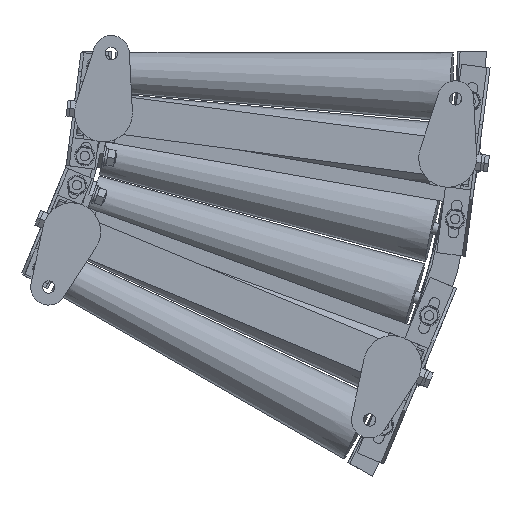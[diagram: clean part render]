
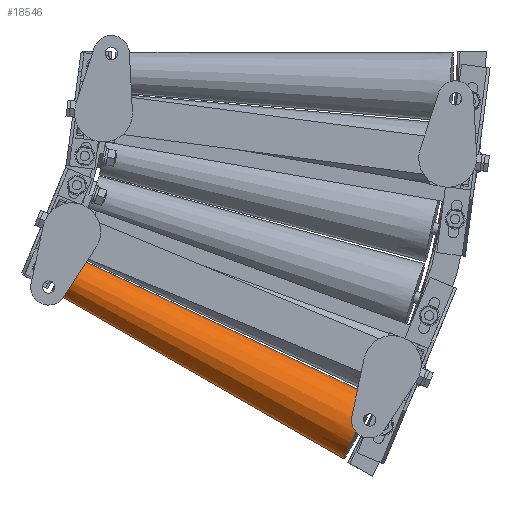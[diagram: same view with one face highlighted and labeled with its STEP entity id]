
A CAD part, front view. The second image highlights one B-rep face of the part: STEP entity #18546.
In plain terms, the highlighted conical face has half-angle 2.422 degrees and reference radius 36.35 mm.
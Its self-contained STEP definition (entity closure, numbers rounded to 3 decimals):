
#5258 = DIRECTION ( 'NONE',  ( 0.886, -0.042, -0.461 ) ) ;
#9845 = VERTEX_POINT ( 'NONE', #62676 ) ;
#11859 = CONICAL_SURFACE ( 'NONE', #29322, 36.35, 0.042 ) ;
#13032 = LINE ( 'NONE', #29875, #73613 ) ;
#18546 = ADVANCED_FACE ( 'NONE', ( #55116 ), #11859, .T. ) ;
#19120 = CARTESIAN_POINT ( 'NONE',  ( 457.377, -21.331, -214.026 ) ) ;
#20993 = CARTESIAN_POINT ( 'NONE',  ( 778.63, -36.318, -364.349 ) ) ;
#24072 = LINE ( 'NONE', #86796, #32755 ) ;
#24099 = VERTEX_POINT ( 'NONE', #20993 ) ;
#27159 = EDGE_CURVE ( 'NONE', #27492, #9845, #24072, .T. ) ;
#27492 = VERTEX_POINT ( 'NONE', #89789 ) ;
#29263 = CARTESIAN_POINT ( 'NONE',  ( 761.845, -36.318, -396.591 ) ) ;
#29322 = AXIS2_PLACEMENT_3D ( 'NONE', #53663, #5258, #81485 ) ;
#29875 = CARTESIAN_POINT ( 'NONE',  ( 778.63, -36.318, -364.349 ) ) ;
#32755 = VECTOR ( 'NONE', #38364, 1000. ) ;
#34746 = ORIENTED_EDGE ( 'NONE', *, *, #80689, .F. ) ;
#36521 = DIRECTION ( 'NONE',  ( 0.905, -0.042, -0.423 ) ) ;
#38364 = DIRECTION ( 'NONE',  ( 0.866, -0.042, -0.498 ) ) ;
#40986 = DIRECTION ( 'NONE',  ( -0.886, 0.042, 0.461 ) ) ;
#46493 = CIRCLE ( 'NONE', #81958, 21.35 ) ;
#49791 = ORIENTED_EDGE ( 'NONE', *, *, #60285, .F. ) ;
#53335 = AXIS2_PLACEMENT_3D ( 'NONE', #29263, #78066, #77766 ) ;
#53617 = ORIENTED_EDGE ( 'NONE', *, *, #27159, .T. ) ;
#53663 = CARTESIAN_POINT ( 'NONE',  ( 761.845, -36.318, -396.591 ) ) ;
#54364 = VERTEX_POINT ( 'NONE', #19120 ) ;
#55116 = FACE_OUTER_BOUND ( 'NONE', #64313, .T. ) ;
#58458 = EDGE_CURVE ( 'NONE', #9845, #24099, #60254, .T. ) ;
#59546 = ORIENTED_EDGE ( 'NONE', *, *, #58458, .T. ) ;
#60254 = CIRCLE ( 'NONE', #53335, 36.35 ) ;
#60285 = EDGE_CURVE ( 'NONE', #27492, #54364, #46493, .T. ) ;
#62676 = CARTESIAN_POINT ( 'NONE',  ( 745.06, -36.318, -428.834 ) ) ;
#64313 = EDGE_LOOP ( 'NONE', ( #34746, #49791, #53617, #59546 ) ) ;
#73613 = VECTOR ( 'NONE', #36521, 1000. ) ;
#77766 = DIRECTION ( 'NONE',  ( 0.462, 0., 0.887 ) ) ;
#78066 = DIRECTION ( 'NONE',  ( -0.886, 0.042, 0.461 ) ) ;
#80689 = EDGE_CURVE ( 'NONE', #54364, #24099, #13032, .T. ) ;
#81485 = DIRECTION ( 'NONE',  ( -0.462, 0., -0.887 ) ) ;
#81958 = AXIS2_PLACEMENT_3D ( 'NONE', #82478, #40986, #89419 ) ;
#82478 = CARTESIAN_POINT ( 'NONE',  ( 447.518, -21.331, -232.963 ) ) ;
#86796 = CARTESIAN_POINT ( 'NONE',  ( 745.06, -36.318, -428.834 ) ) ;
#89419 = DIRECTION ( 'NONE',  ( 0.462, 0., 0.887 ) ) ;
#89789 = CARTESIAN_POINT ( 'NONE',  ( 437.66, -21.331, -251.901 ) ) ;
